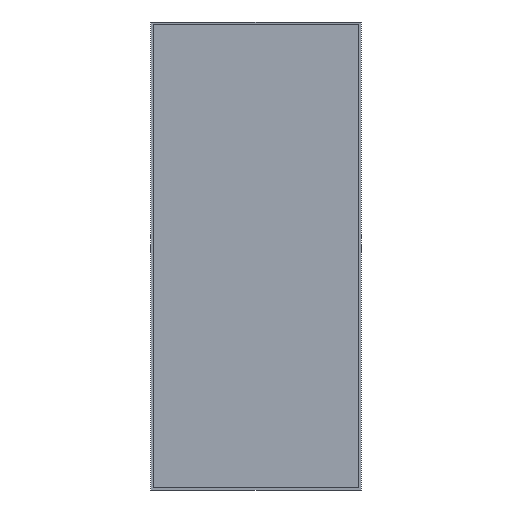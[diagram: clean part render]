
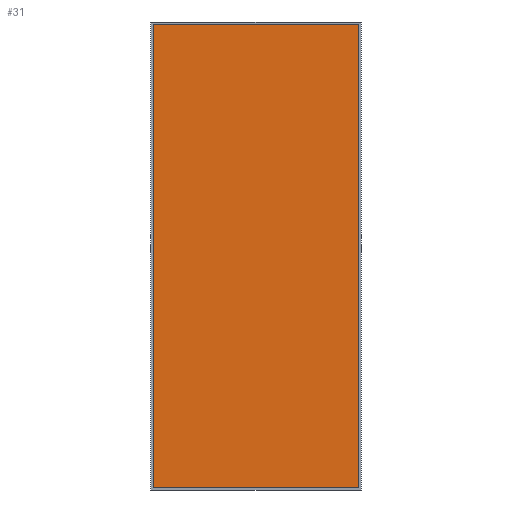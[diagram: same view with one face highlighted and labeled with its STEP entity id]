
A CAD part, front view. The second image highlights one B-rep face of the part: STEP entity #31.
In plain terms, the highlighted planar face has unit normal (0, -1, 0).
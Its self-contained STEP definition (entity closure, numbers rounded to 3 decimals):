
#31=ADVANCED_FACE('',(#49),#215,.T.);
#49=FACE_OUTER_BOUND('',#67,.T.);
#67=EDGE_LOOP('',(#133,#134,#135,#136));
#133=ORIENTED_EDGE('',*,*,#175,.F.);
#134=ORIENTED_EDGE('',*,*,#172,.F.);
#135=ORIENTED_EDGE('',*,*,#169,.F.);
#136=ORIENTED_EDGE('',*,*,#165,.F.);
#165=EDGE_CURVE('',#193,#194,#249,.T.);
#169=EDGE_CURVE('',#194,#197,#253,.T.);
#172=EDGE_CURVE('',#197,#199,#256,.T.);
#175=EDGE_CURVE('',#199,#193,#259,.T.);
#193=VERTEX_POINT('',#412);
#194=VERTEX_POINT('',#413);
#197=VERTEX_POINT('',#416);
#199=VERTEX_POINT('',#418);
#215=PLANE('',#295);
#249=B_SPLINE_CURVE_WITH_KNOTS('',1,(#420,#421),.UNSPECIFIED.,.F.,.F.,(2,
2),(-2865.,-1875.),.UNSPECIFIED.);
#253=B_SPLINE_CURVE_WITH_KNOTS('',1,(#428,#429),.UNSPECIFIED.,.F.,.F.,(2,
2),(-1875.,-1435.),.UNSPECIFIED.);
#256=B_SPLINE_CURVE_WITH_KNOTS('',1,(#434,#435),.UNSPECIFIED.,.F.,.F.,(2,
2),(-1435.,-445.),.UNSPECIFIED.);
#259=B_SPLINE_CURVE_WITH_KNOTS('',1,(#440,#441),.UNSPECIFIED.,.F.,.F.,(2,
2),(-445.,-5.),.UNSPECIFIED.);
#295=AXIS2_PLACEMENT_3D('',#410,#315,$);
#315=DIRECTION('',(0.,-1.,0.));
#410=CARTESIAN_POINT('',(3105.038,1189.17,452.352));
#412=CARTESIAN_POINT('',(2665.038,1189.17,452.352));
#413=CARTESIAN_POINT('',(2665.038,1189.17,1442.352));
#416=CARTESIAN_POINT('',(3105.038,1189.17,1442.352));
#418=CARTESIAN_POINT('',(3105.038,1189.17,452.352));
#420=CARTESIAN_POINT('',(2665.038,1189.17,452.352));
#421=CARTESIAN_POINT('',(2665.038,1189.17,1442.352));
#428=CARTESIAN_POINT('',(2665.038,1189.17,1442.352));
#429=CARTESIAN_POINT('',(3105.038,1189.17,1442.352));
#434=CARTESIAN_POINT('',(3105.038,1189.17,1442.352));
#435=CARTESIAN_POINT('',(3105.038,1189.17,452.352));
#440=CARTESIAN_POINT('',(3105.038,1189.17,452.352));
#441=CARTESIAN_POINT('',(2665.038,1189.17,452.352));
